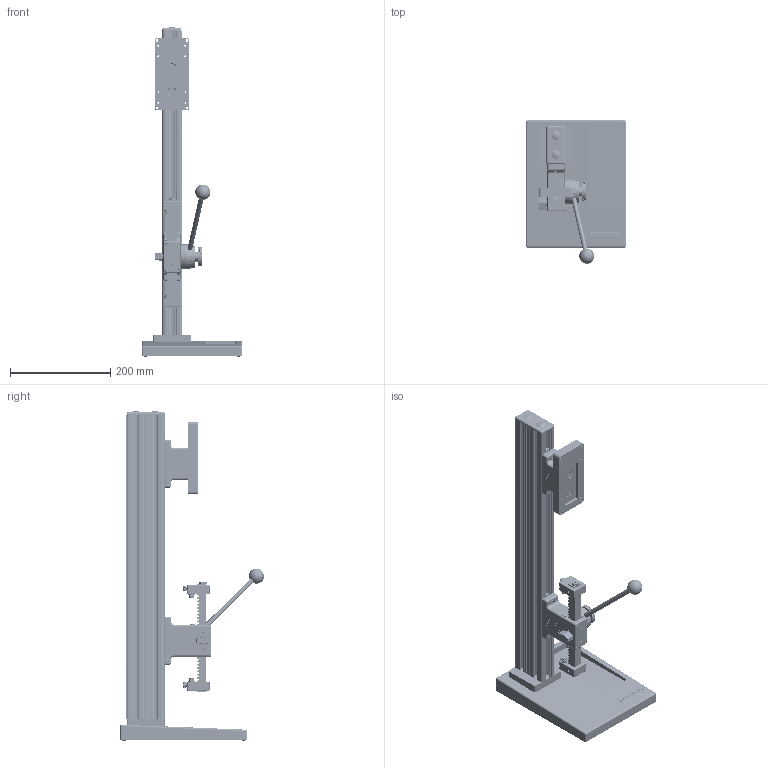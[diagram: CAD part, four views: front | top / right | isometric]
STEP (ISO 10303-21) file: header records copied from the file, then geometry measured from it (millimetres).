
FILE_DESCRIPTION(/* description */ (''),/* implementation_level */ '2;1');
FILE_NAME(/* name */ 'F:\CAD files\Itr\3D MARKETING MODELS\MANUAL TEST STANDS\TSA750\TSA750.stp',/* time_stamp */ '2018-07-18T11:23:17-04:00',/* author */ ('mlampen'),/* organization */ (''),/* preprocessor_version */ 'ST-DEVELOPER v17',/* originating_system */ 'AutoCAD Mechanical',/* authorisation */ '');
FILE_SCHEMA (('AUTOMOTIVE_DESIGN { 1 0 10303 214 3 1 1 }'));
Products named in the file (2): Product; 91251A535
Assembly tree (1 placements, depth 2):
  Product
    91251A535
Bounding box: 200.66 x 286.81 x 658.57 mm (x, y, z)
Volume: 2794500.8 mm3; surface area: 667179.6 mm2
Topology: 5 solids, 23 shells, 7710 faces, 19777 edges, 12184 vertices
Faces by surface type: plane 4127, cylinder 2978, cone 440, bspline 82, sphere 54, torus 29
Full cylindrical faces by diameter (mm): 2.474 x56, 3.505 x52, 3.556 x10, 3.795 x42, 3.81 x8, 4.039 x8, 4.166 x1, 4.737 x2, 4.75 x1, 4.762 x1, 4.826 x66, 5.031 x1, 5.08 x1, 5.207 x4, 5.613 x2, 5.74 x15, 6.104 x28, 6.147 x1, 6.223 x4, 6.35 x31, 6.528 x2, 6.553 x21, 7.112 x4, 7.137 x2, 7.925 x4, 7.938 x24, 8.331 x2, 8.382 x2, 8.636 x6, 9.347 x1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
Entity records: 285842 total; most frequent: CARTESIAN_POINT 100616, DIRECTION 41308, ORIENTED_EDGE 39222, EDGE_CURVE 19611, AXIS2_PLACEMENT_3D 17414, VERTEX_POINT 12029, EDGE_LOOP 7952, FACE_OUTER_BOUND 7710
